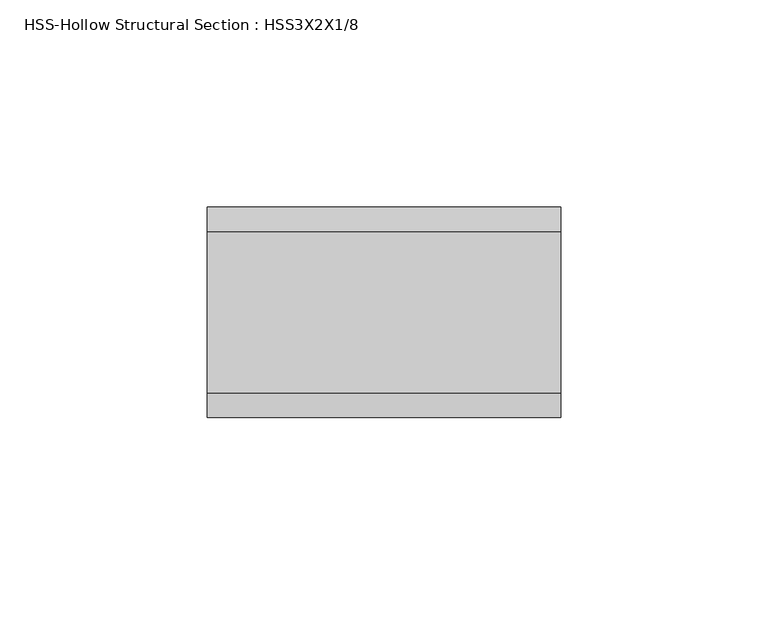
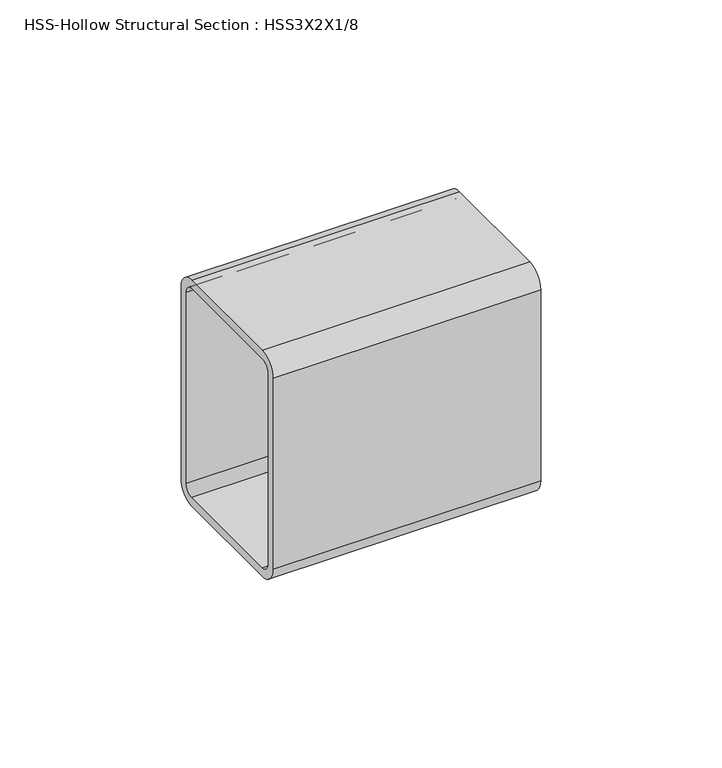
"""IFC4 building model written with IfcOpenShell, lengths in millimetres: beam geometry, HSS-Hollow Structural Section : HSS3X2X1/8."""

from ifc_helpers import new_model, si_unit, point, frame, frame_2d, origin, place, context, project, spatial, polyline, circle_curve, trimmed, segment, composite_curve, outline, extrude, source, transform, mapped, element, save


def hss_hollow_structural_section_hss3x2x1_8_ec86c395(model_context):
    return source(origin(), model_context, "Body", "SweptSolid", [
        extrude(outline(composite_curve([segment(polyline([(25.4, 32.2072), (25.4, -32.2072)]), True, "CONTINUOUS"), segment(trimmed(circle_curve(frame_2d((19.5072, -32.2072)), 5.8928), [point((25.4, -32.2072))], [point((19.5072, -38.1))], False, "CARTESIAN"), True, "CONTINUOUS"), segment(polyline([(19.5072, -38.1), (-19.5072, -38.1)]), True, "CONTINUOUS"), segment(trimmed(circle_curve(frame_2d((-19.5072, -32.2072)), 5.8928), [point((-19.5072, -38.1))], [point((-25.4, -32.2072))], False, "CARTESIAN"), True, "CONTINUOUS"), segment(polyline([(-25.4, -32.2072), (-25.4, 32.2072)]), True, "CONTINUOUS"), segment(trimmed(circle_curve(frame_2d((-19.5072, 32.2072)), 5.8928), [point((-25.4, 32.2072))], [point((-19.5072, 38.1))], False, "CARTESIAN"), True, "CONTINUOUS"), segment(polyline([(-19.5072, 38.1), (19.5072, 38.1)]), True, "CONTINUOUS"), segment(trimmed(circle_curve(frame_2d((19.5072, 32.2072)), 5.8928), [point((19.5072, 38.1))], [point((25.4, 32.2072))], False, "CARTESIAN"), True, "CONTINUOUS")], self_intersect=False), holes=[composite_curve([segment(trimmed(circle_curve(frame_2d((-19.5072, 32.2072)), 2.9464), [point((-19.5072, 35.1536))], [point((-22.4536, 32.2072))], True, "CARTESIAN"), True, "CONTINUOUS"), segment(polyline([(-22.4536, 32.2072), (-22.4536, -32.2072)]), True, "CONTINUOUS"), segment(trimmed(circle_curve(frame_2d((-19.5072, -32.2072)), 2.9464), [point((-22.4536, -32.2072))], [point((-19.5072, -35.1536))], True, "CARTESIAN"), True, "CONTINUOUS"), segment(polyline([(-19.5072, -35.1536), (19.5072, -35.1536)]), True, "CONTINUOUS"), segment(trimmed(circle_curve(frame_2d((19.5072, -32.2072)), 2.9464), [point((19.5072, -35.1536))], [point((22.4536, -32.2072))], True, "CARTESIAN"), True, "CONTINUOUS"), segment(polyline([(22.4536, -32.2072), (22.4536, 32.2072)]), True, "CONTINUOUS"), segment(trimmed(circle_curve(frame_2d((19.5072, 32.2072)), 2.9464), [point((22.4536, 32.2072))], [point((19.5072, 35.1536))], True, "CARTESIAN"), True, "CONTINUOUS"), segment(polyline([(19.5072, 35.1536), (-19.5072, 35.1536)]), True, "CONTINUOUS")], self_intersect=False)]), frame((10.3362796, 0.0, 0.0), z_axis=(1.0, 0.0, 0.0), x_axis=(0.0, 1.0, 0.0)), (0.0, 0.0, 1.0), 85.3160367),
    ])


if __name__ == "__main__":
    model = new_model("IFC4")
    model_context = context("Model", 3, world=origin())
    ifc_project = project(units=[si_unit("LENGTHUNIT", "METRE", prefix="MILLI")], contexts=[model_context])
    site = spatial("IfcSite", under=ifc_project)
    building = spatial("IfcBuilding", under=site)
    placement = place(None, origin())
    hss_hollow_structural_section_hss3x2x1_8_shape = hss_hollow_structural_section_hss3x2x1_8_ec86c395(model_context)
    element("IfcBeam", 1, ObjectType="HSS-Hollow Structural Section : HSS3X2X1/8", at=placement, inside=building, context=model_context, shape_type="MappedRepresentation", body=[
        mapped(hss_hollow_structural_section_hss3x2x1_8_shape, transform((0.0, 0.0, 0.0), x_axis=(1.0, 0.0, 0.0), y_axis=(0.0, 1.0, 0.0), z_axis=(0.0, 0.0, 1.0))),
    ])
    save(model, "model.ifc")
